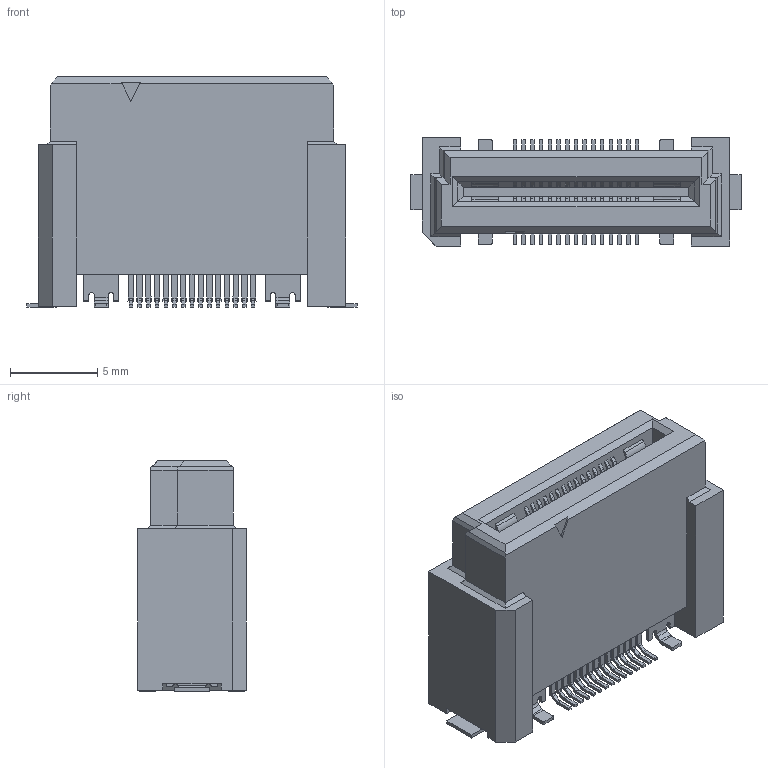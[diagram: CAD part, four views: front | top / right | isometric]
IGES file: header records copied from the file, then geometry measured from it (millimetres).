
Start section: Elysium IGES Interface
Global section: file name: 124HG:\その他\DT関連\DT_CADﾃﾞｰﾀ\DT_3DCAD(客先提出用)\プラグ\DT1XE(電源pin)\-15\DT10E-XXXS-15-T(WEB用)\P3E816_DT10E-030S-15-T.igs; native system: Creo Elements/Direct Modeling 20.6  25-Mar-2023; preprocessor: Creo Element/Direct IGES_3D V2.2; author: Unknown; organization: Unknown; date: 20240313.113512; units: millimetre
Bounding box: 18.9 x 6.2 x 13.18 mm (x, y, z)
Volume: 944 mm3; surface area: 1027.6 mm2
Topology: 1 solids, 1 shells, 1165 faces, 3278 edges, 2152 vertices
Faces by surface type: bspline 1165
